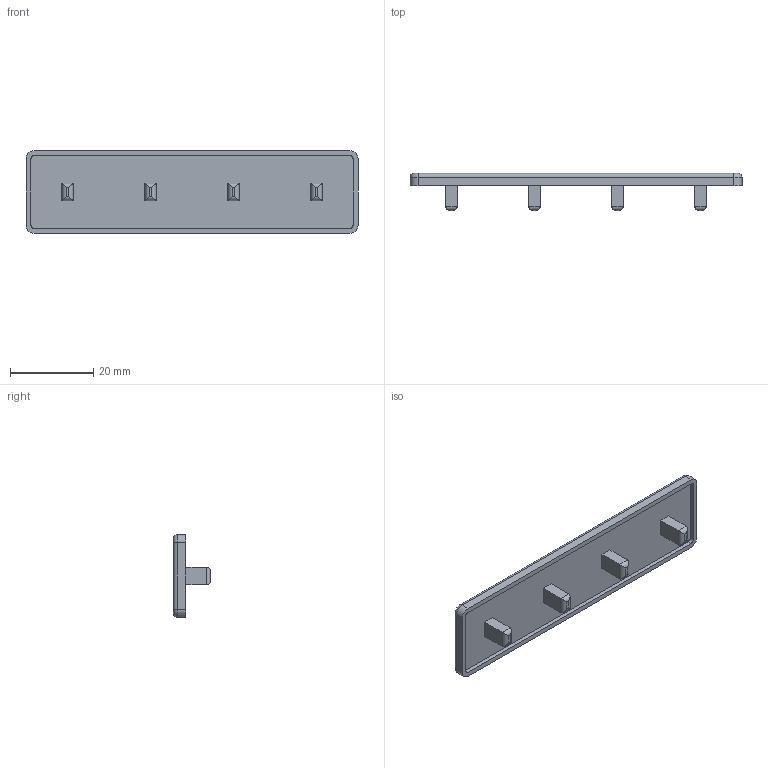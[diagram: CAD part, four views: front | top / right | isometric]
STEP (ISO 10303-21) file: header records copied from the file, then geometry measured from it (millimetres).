
FILE_DESCRIPTION (( 'STEP AP214' ), '1' );
FILE_NAME ('J2C8.step', '2017-05-24T07:36:35', ( 'admin' ), ( '' ), 'SwSTEP 2.0', 'SolidWorks 2014', '' );
FILE_SCHEMA (( 'AUTOMOTIVE_DESIGN' ));
Length unit declared in the file: millimetre
Products named in the file (1): J2C8
Bounding box: 80 x 9 x 20 mm (x, y, z)
Volume: 3689.8 mm3; surface area: 4247.5 mm2
Topology: 1 solids, 1 shells, 63 faces, 144 edges, 88 vertices
Faces by surface type: plane 31, cylinder 28, torus 4
Entity records: 1768 total; most frequent: CARTESIAN_POINT 344, ORIENTED_EDGE 288, DIRECTION 284, EDGE_CURVE 144, LINE 100, VECTOR 100, AXIS2_PLACEMENT_3D 92, VERTEX_POINT 88
